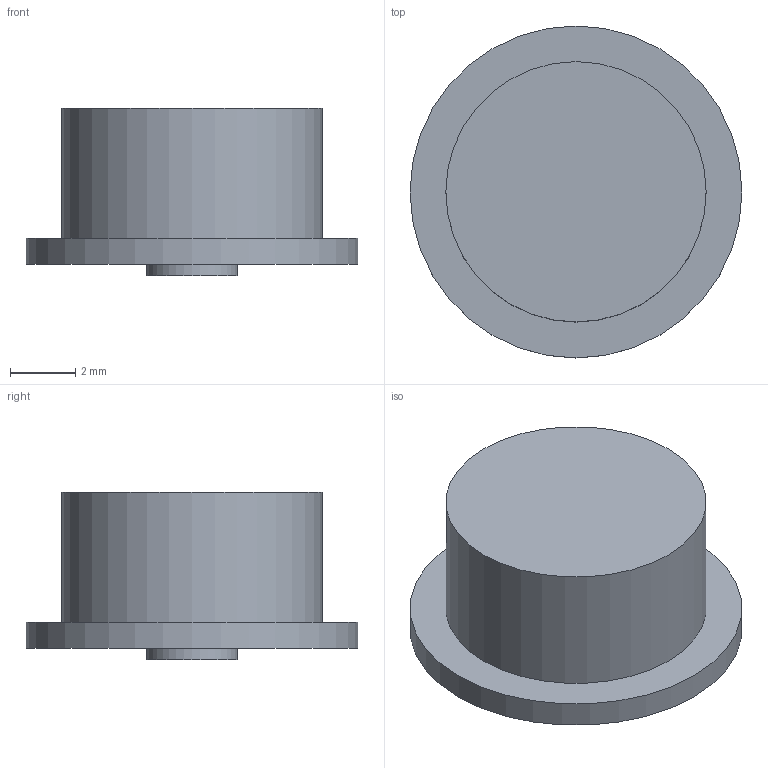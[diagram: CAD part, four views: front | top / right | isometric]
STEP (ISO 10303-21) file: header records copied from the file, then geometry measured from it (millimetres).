
FILE_DESCRIPTION(('FreeCAD Model'),'2;1');
FILE_NAME('Open CASCADE Shape Model','2026-10-20T15:18:15',('FreeCAD'),( 'FreeCAD'),'Open CASCADE STEP processor 7.8','FreeCAD','Unknown');
FILE_SCHEMA(('AUTOMOTIVE_DESIGN { 1 0 10303 214 1 1 1 1 }'));
Length unit declared in the file: millimetre
Products named in the file (1): Open CASCADE STEP translator 7.8 14
Bounding box: 10.2 x 10.2 x 5.15 mm (x, y, z)
Volume: 268.6 mm3; surface area: 292.7 mm2
Topology: 1 solids, 1 shells, 7 faces, 9 edges, 6 vertices
Faces by surface type: plane 4, cylinder 3
Full cylindrical faces by diameter (mm): 2.8 x1, 8 x1, 10.2 x1
Entity records: 159 total; most frequent: DIRECTION 31, CARTESIAN_POINT 23, ORIENTED_EDGE 18, AXIS2_PLACEMENT_3D 14, FACE_BOUND 9, EDGE_LOOP 9, EDGE_CURVE 9, ADVANCED_FACE 7
